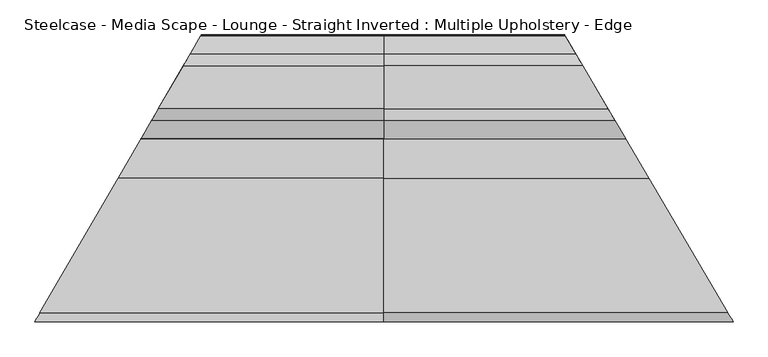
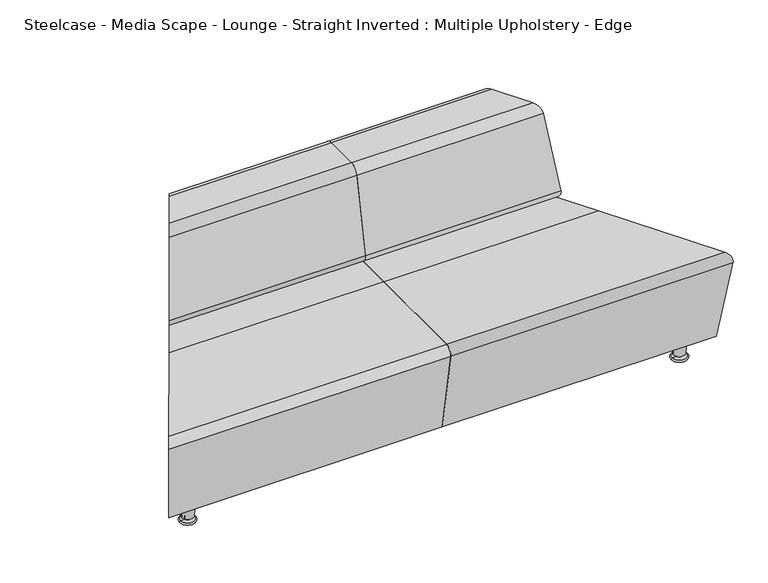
"""IFC4 building model written with IfcOpenShell, lengths in millimetres: furniture geometry, Steelcase - Media Scape - Lounge - Straight Inverted : Multiple Upholstery - Edge."""

from ifc_helpers import new_model, si_unit, point, frame, origin, place, context, project, spatial, polyline, circle_curve, ellipse_curve, trimmed, source, transform, mapped, element, save
from ifc_brep_helpers import plane_surface, cylinder_surface, revolved_surface, advanced_brep


def steelcase_media_scape_lounge_straight_inverted_multiple_60ef6d6e(model_context):
    return source(origin(), model_context, "Body", "AdvancedBrep", [
        advanced_brep(
        [(1014.6953148, 744.8271599, 735.3711206), (1014.6953148, 618.8595758, 735.3711206), (1014.6953148, 585.4318912, 707.8962134), (1014.6953148, 778.2548445, 707.8962134), (451.7110152, 778.2548445, 707.8962134), (432.3091266, 744.8271599, 735.3711206), (339.7939172, 585.4318912, 707.8962134), (359.1958058, 618.8595758, 735.3711206)],
        [
            (0, 1),
            (1, 2, circle_curve(frame((1014.6953148, 618.8595758, 701.2985646), z_axis=(1.0, 0.0, 0.0), x_axis=(0.0, -1.0, 0.0)), 34.0725559)),
            (2, 3),
            (3, 0, circle_curve(frame((1014.6953148, 744.8271599, 701.2985646), z_axis=(1.0, 0.0, 0.0), x_axis=(0.0, 1.0, 0.0)), 34.0725559)),
            (3, 4),
            (4, 5, ellipse_curve(frame((432.3091266, 744.8271599, 701.2985646), z_axis=(0.8648758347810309, -0.5019858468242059, 0.0), x_axis=(-0.5019858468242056, -0.864875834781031, 0.0)), 39.3958931, 34.0725559)),
            (5, 0),
            (2, 6),
            (6, 4),
            (1, 7),
            (7, 6, ellipse_curve(frame((359.1958058, 618.8595758, 701.2985646), z_axis=(0.8648758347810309, -0.5019858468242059, 0.0), x_axis=(-0.5019858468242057, -0.864875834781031, 0.0)), 39.3958931, 34.0725559)),
            (5, 7),
        ],
        [
            plane_surface(frame((1014.6953148, 778.8997158, 701.2985646), z_axis=(1.0, 0.0, 0.0), x_axis=(0.0, 0.0, 1.0))),
            cylinder_surface(frame((1014.6953148, 744.8271599, 701.2985646), z_axis=(-1.0, 0.0, 0.0), x_axis=(0.0, 1.0, 0.0)), 34.0725559),
            plane_surface(frame((0.0, 778.2548445, 707.8962134), z_axis=(0.0, 0.0, -1.0), x_axis=(1.0, 0.0, 0.0))),
            cylinder_surface(frame((1014.6953148, 618.8595758, 701.2985646), z_axis=(-1.0, 0.0, 0.0), x_axis=(0.0, -1.0, 0.0)), 34.0725559),
            plane_surface(frame((0.0, 618.8595758, 735.3711206), z_axis=(0.0, 0.0, 1.0), x_axis=(1.0, 0.0, 0.0))),
            plane_surface(frame((-97.2912411, -167.6259759, 763.7516668), z_axis=(-0.8648758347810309, 0.5019858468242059, 0.0), x_axis=(0.0, 0.0, -1.0))),
        ],
        [
            (0, [[1, 2, 3, 4]]),
            (1, [[-4, 5, 6, 7]]),
            (2, [[-3, 8, 9, -5]]),
            (3, [[-2, 10, 11, -8]]),
            (4, [[-1, -7, 12, -10]]),
            (5, [[-6, -9, -11, -12]]),
        ],
    ),
        advanced_brep(
        [(1014.6953148, 744.8271599, 735.3711206), (1014.6953148, 778.2548445, 707.8962134), (1014.6953148, 585.4318912, 707.8962134), (1014.6953148, 618.8595758, 735.3711206), (1666.8190592, 618.8595758, 735.3711206), (1592.7394393, 744.8271599, 735.3711206), (1686.477372, 585.4318912, 707.8962134), (1573.0811265, 778.2548445, 707.8962134)],
        [
            (0, 1, circle_curve(frame((1014.6953148, 744.8271599, 701.2985646), z_axis=(-1.0, 0.0, 0.0), x_axis=(0.0, 1.0, 0.0)), 34.0725559)),
            (1, 2),
            (2, 3, circle_curve(frame((1014.6953148, 618.8595758, 701.2985646), z_axis=(-1.0, 0.0, 0.0), x_axis=(0.0, -1.0, 0.0)), 34.0725559)),
            (3, 0),
            (3, 4),
            (4, 5),
            (5, 0),
            (2, 6),
            (6, 4, ellipse_curve(frame((1666.8190592, 618.8595758, 701.2985646), z_axis=(-0.8619909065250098, -0.5069237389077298, 0.0), x_axis=(0.5069237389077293, -0.8619909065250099, 0.0)), 39.5277441, 34.0725559)),
            (1, 7),
            (7, 6),
            (5, 7, ellipse_curve(frame((1592.7394393, 744.8271599, 701.2985646), z_axis=(-0.8619909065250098, -0.5069237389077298, 0.0), x_axis=(0.5069237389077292, -0.8619909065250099, 0.0)), 39.5277441, 34.0725559)),
        ],
        [
            plane_surface(frame((1014.6953148, 567.2050656, 735.3711206), z_axis=(-1.0, 0.0, 0.0), x_axis=(0.0, 1.0, 0.0))),
            plane_surface(frame((2041.4176852, 744.8271599, 735.3711206), z_axis=(0.0, 0.0, 1.0), x_axis=(-1.0, 0.0, 0.0))),
            cylinder_surface(frame((1014.6953148, 618.8595758, 701.2985646), z_axis=(1.0, 0.0, 0.0), x_axis=(0.0, -1.0, 0.0)), 34.0725559),
            plane_surface(frame((2041.4176852, 585.4318912, 707.8962134), z_axis=(0.0, 0.0, -1.0), x_axis=(-1.0, 0.0, 0.0))),
            cylinder_surface(frame((1014.6953148, 744.8271599, 701.2985646), z_axis=(1.0, 0.0, 0.0), x_axis=(0.0, 1.0, 0.0)), 34.0725559),
            plane_surface(frame((1493.0162317, 914.4, 763.7516668), z_axis=(0.8619909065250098, 0.5069237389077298, 0.0), x_axis=(0.0, 0.0, -1.0))),
        ],
        [
            (0, [[1, 2, 3, 4]]),
            (1, [[-4, 5, 6, 7]]),
            (2, [[-3, 8, 9, -5]]),
            (3, [[-2, 10, 11, -8]]),
            (4, [[-1, -7, 12, -10]]),
            (5, [[-6, -9, -11, -12]]),
        ],
    ),
        advanced_brep(
        [(1014.6953148, 744.618392, 735.1171206), (1014.6953148, 619.0683436, 735.1171206), (1014.6953148, 585.640659, 707.6422134), (1014.6953148, 531.7822003, 434.7626426), (1014.6953148, 556.7014693, 404.4443065), (1014.6953148, 806.9852663, 404.4443065), (1014.6953148, 831.9045354, 434.7626426), (1014.6953148, 778.0460766, 707.6422134), (451.5898434, 778.0460766, 707.6422134), (432.1879548, 744.618392, 735.1171206), (482.8500347, 831.9045354, 434.7626426), (468.3865477, 806.9852663, 404.4443065), (323.1183847, 556.7014693, 404.4443065), (308.6548977, 531.7822003, 434.7626426), (339.9150889, 585.640659, 707.6422134), (359.3169775, 619.0683436, 735.1171206)],
        [
            (0, 1),
            (1, 2, circle_curve(frame((1014.6953148, 619.0683436, 701.0445646), z_axis=(1.0, 0.0, 0.0), x_axis=(0.0, -1.0, 0.0)), 34.0725559)),
            (2, 3),
            (3, 4, circle_curve(frame((1014.6953148, 556.7014693, 429.8443065), z_axis=(1.0, 0.0, 0.0), x_axis=(0.0, -1.0, 0.0)), 25.4)),
            (4, 5),
            (5, 6, circle_curve(frame((1014.6953148, 806.9852663, 429.8443065), z_axis=(1.0, 0.0, 0.0), x_axis=(0.0, 1.0, 0.0)), 25.4)),
            (6, 7),
            (7, 0, circle_curve(frame((1014.6953148, 744.618392, 701.0445646), z_axis=(1.0, 0.0, 0.0), x_axis=(0.0, 1.0, 0.0)), 34.0725559)),
            (7, 8),
            (8, 9, ellipse_curve(frame((432.1879548, 744.618392, 701.0445646), z_axis=(0.8648758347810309, -0.501985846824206, 0.0), x_axis=(-0.5019858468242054, -0.864875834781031, 0.0)), 39.3958931, 34.0725559)),
            (9, 0),
            (6, 10),
            (10, 8),
            (5, 11),
            (11, 10, ellipse_curve(frame((468.3865477, 806.9852663, 429.8443065), z_axis=(0.8648758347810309, -0.501985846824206, 0.0), x_axis=(-0.5019858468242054, -0.864875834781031, 0.0)), 29.3683775, 25.4)),
            (4, 12),
            (12, 11),
            (3, 13),
            (13, 12, ellipse_curve(frame((323.1183847, 556.7014693, 429.8443065), z_axis=(0.8648758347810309, -0.501985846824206, 0.0), x_axis=(-0.5019858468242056, -0.864875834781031, 0.0)), 29.3683775, 25.4)),
            (2, 14),
            (14, 13),
            (1, 15),
            (15, 14, ellipse_curve(frame((359.3169775, 619.0683436, 701.0445646), z_axis=(0.8648758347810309, -0.501985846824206, 0.0), x_axis=(-0.5019858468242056, -0.864875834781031, 0.0)), 39.3958931, 34.0725559)),
            (9, 15),
        ],
        [
            plane_surface(frame((1014.6953148, 778.690948, 701.0445646), z_axis=(1.0, 0.0, 0.0), x_axis=(0.0, 0.0, 1.0))),
            cylinder_surface(frame((1014.6953148, 744.618392, 701.0445646), z_axis=(-1.0, 0.0, 0.0), x_axis=(0.0, 1.0, 0.0)), 34.0725559),
            plane_surface(frame((0.0, 778.0460766, 707.6422134), z_axis=(0.0, 0.9810735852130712, 0.19363527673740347), x_axis=(1.0, 0.0, 0.0))),
            cylinder_surface(frame((1014.6953148, 806.9852663, 429.8443065), z_axis=(-1.0, 0.0, 0.0), x_axis=(0.0, 1.0, 0.0)), 25.4),
            plane_surface(frame((0.0, 806.9852663, 404.4443065), z_axis=(0.0, 0.0, -1.0), x_axis=(1.0, 0.0, 0.0))),
            cylinder_surface(frame((1014.6953148, 556.7014693, 429.8443065), z_axis=(-1.0, 0.0, 0.0), x_axis=(0.0, -1.0, 0.0)), 25.4),
            plane_surface(frame((0.0, 531.7822003, 434.7626426), z_axis=(0.0, -0.9810735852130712, 0.19363527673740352), x_axis=(1.0, 0.0, 0.0))),
            cylinder_surface(frame((1014.6953148, 619.0683436, 701.0445646), z_axis=(-1.0, 0.0, 0.0), x_axis=(0.0, -1.0, 0.0)), 34.0725559),
            plane_surface(frame((0.0, 619.0683436, 735.1171206), z_axis=(0.0, 0.0, 1.0), x_axis=(1.0, 0.0, 0.0))),
            plane_surface(frame((-97.2912411, -167.6259759, 735.3711206), z_axis=(-0.8648758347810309, 0.501985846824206, 0.0), x_axis=(0.0, 0.0, -1.0))),
        ],
        [
            (0, [[1, 2, 3, 4, 5, 6, 7, 8]]),
            (1, [[-8, 9, 10, 11]]),
            (2, [[-7, 12, 13, -9]]),
            (3, [[-6, 14, 15, -12]]),
            (4, [[-5, 16, 17, -14]]),
            (5, [[-4, 18, 19, -16]]),
            (6, [[-3, 20, 21, -18]]),
            (7, [[-2, 22, 23, -20]]),
            (8, [[-1, -11, 24, -22]]),
            (9, [[-10, -13, -15, -17, -19, -21, -23, -24]]),
        ],
    ),
        advanced_brep(
        [(1014.6953148, 744.618392, 735.1171206), (1014.6953148, 778.0460766, 707.6422134), (1014.6953148, 831.9045354, 434.7626426), (1014.6953148, 806.9852663, 404.4443065), (1014.6953148, 556.7014693, 404.4443065), (1014.6953148, 531.7822003, 434.7626426), (1014.6953148, 585.640659, 707.6422134), (1014.6953148, 619.0683436, 735.1171206), (1666.696286, 619.0683436, 735.1171206), (1592.8622125, 744.618392, 735.1171206), (1686.3545988, 585.640659, 707.6422134), (1718.027939, 531.7822003, 434.7626426), (1703.373296, 556.7014693, 404.4443065), (1556.1852025, 806.9852663, 404.4443065), (1541.5305594, 831.9045354, 434.7626426), (1573.2038997, 778.0460766, 707.6422134)],
        [
            (0, 1, circle_curve(frame((1014.6953148, 744.618392, 701.0445646), z_axis=(-1.0, 0.0, 0.0), x_axis=(0.0, 1.0, 0.0)), 34.0725559)),
            (1, 2),
            (2, 3, circle_curve(frame((1014.6953148, 806.9852663, 429.8443065), z_axis=(-1.0, 0.0, 0.0), x_axis=(0.0, 1.0, 0.0)), 25.4)),
            (3, 4),
            (4, 5, circle_curve(frame((1014.6953148, 556.7014693, 429.8443065), z_axis=(-1.0, 0.0, 0.0), x_axis=(0.0, -1.0, 0.0)), 25.4)),
            (5, 6),
            (6, 7, circle_curve(frame((1014.6953148, 619.0683436, 701.0445646), z_axis=(-1.0, 0.0, 0.0), x_axis=(0.0, -1.0, 0.0)), 34.0725559)),
            (7, 0),
            (7, 8),
            (8, 9),
            (9, 0),
            (6, 10),
            (10, 8, ellipse_curve(frame((1666.696286, 619.0683436, 701.0445646), z_axis=(-0.8619909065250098, -0.5069237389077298, 0.0), x_axis=(0.5069237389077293, -0.8619909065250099, 0.0)), 39.5277441, 34.0725559)),
            (5, 11),
            (11, 10),
            (4, 12),
            (12, 11, ellipse_curve(frame((1703.373296, 556.7014693, 429.8443065), z_axis=(-0.8619909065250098, -0.5069237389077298, 0.0), x_axis=(0.5069237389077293, -0.8619909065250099, 0.0)), 29.4666682, 25.4)),
            (3, 13),
            (13, 12),
            (2, 14),
            (14, 13, ellipse_curve(frame((1556.1852025, 806.9852663, 429.8443065), z_axis=(-0.8619909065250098, -0.5069237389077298, 0.0), x_axis=(0.5069237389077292, -0.8619909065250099, 0.0)), 29.4666682, 25.4)),
            (1, 15),
            (15, 14),
            (9, 15, ellipse_curve(frame((1592.8622125, 744.618392, 701.0445646), z_axis=(-0.8619909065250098, -0.5069237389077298, 0.0), x_axis=(0.5069237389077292, -0.8619909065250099, 0.0)), 39.5277441, 34.0725559)),
        ],
        [
            plane_surface(frame((1014.6953148, 567.2050656, 735.1171206), z_axis=(-1.0, 0.0, 0.0), x_axis=(0.0, 1.0, 0.0))),
            plane_surface(frame((2041.4176852, 744.618392, 735.1171206), z_axis=(0.0, 0.0, 1.0), x_axis=(-1.0, 0.0, 0.0))),
            cylinder_surface(frame((1014.6953148, 619.0683436, 701.0445646), z_axis=(1.0, 0.0, 0.0), x_axis=(0.0, -1.0, 0.0)), 34.0725559),
            plane_surface(frame((2041.4176852, 585.640659, 707.6422134), z_axis=(0.0, -0.9810735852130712, 0.19363527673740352), x_axis=(-1.0, 0.0, 0.0))),
            cylinder_surface(frame((1014.6953148, 556.7014693, 429.8443065), z_axis=(1.0, 0.0, 0.0), x_axis=(0.0, -1.0, 0.0)), 25.4),
            plane_surface(frame((2041.4176852, 556.7014693, 404.4443065), z_axis=(0.0, 0.0, -1.0), x_axis=(-1.0, 0.0, 0.0))),
            cylinder_surface(frame((1014.6953148, 806.9852663, 429.8443065), z_axis=(1.0, 0.0, 0.0), x_axis=(0.0, 1.0, 0.0)), 25.4),
            plane_surface(frame((2041.4176852, 831.9045354, 434.7626426), z_axis=(0.0, 0.9810735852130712, 0.19363527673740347), x_axis=(-1.0, 0.0, 0.0))),
            cylinder_surface(frame((1014.6953148, 744.618392, 701.0445646), z_axis=(1.0, 0.0, 0.0), x_axis=(0.0, 1.0, 0.0)), 34.0725559),
            plane_surface(frame((1493.0162317, 914.4, 763.7516668), z_axis=(0.8619909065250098, 0.5069237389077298, 0.0), x_axis=(0.0, 0.0, -1.0))),
        ],
        [
            (0, [[1, 2, 3, 4, 5, 6, 7, 8]]),
            (1, [[-8, 9, 10, 11]]),
            (2, [[-7, 12, 13, -9]]),
            (3, [[-6, 14, 15, -12]]),
            (4, [[-5, 16, 17, -14]]),
            (5, [[-4, 18, 19, -16]]),
            (6, [[-3, 20, 21, -18]]),
            (7, [[-2, 22, 23, -20]]),
            (8, [[-1, -11, 24, -22]]),
            (9, [[-10, -13, -15, -17, -19, -21, -23, -24]]),
        ],
    ),
        advanced_brep(
        [(1014.6953148, 416.9525328, 404.4443065), (1014.6953148, 808.4584998, 404.4443065), (1014.6953148, 833.4999769, 374.7917281), (1014.6953148, 782.5280351, 74.6414242), (1014.6953148, 416.9525328, 74.6414242), (1014.6953148, 51.3770305, 74.6414242), (1014.6953148, 0.4050887, 374.7917281), (1014.6953148, 25.4465658, 404.4443065), (1785.5575196, 416.9525328, 404.4443065), (1555.3188163, 808.4584998, 404.4443065), (1540.5923045, 833.4999769, 374.7917281), (1570.5681281, 782.5280351, 74.6414242), (1785.5575196, 416.9525328, 74.6414242), (2000.5469111, 51.3770305, 74.6414242), (2030.5227347, 0.4050887, 374.7917281), (2015.7962229, 25.4465658, 404.4443065)],
        [
            (0, 1),
            (1, 2, circle_curve(frame((1014.6953148, 808.4584998, 379.0443065), z_axis=(-1.0, 0.0, 0.0), x_axis=(0.0, 1.0, 0.0)), 25.4)),
            (2, 3),
            (3, 4),
            (4, 5),
            (5, 6),
            (6, 7, circle_curve(frame((1014.6953148, 25.4465658, 379.0443065), z_axis=(-1.0, 0.0, 0.0), x_axis=(0.0, -1.0, 0.0)), 25.4)),
            (7, 0),
            (0, 8),
            (8, 9),
            (9, 1),
            (9, 10, ellipse_curve(frame((1555.3188163, 808.4584998, 379.0443065), z_axis=(-0.8619909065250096, -0.5069237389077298, 0.0), x_axis=(-0.5069237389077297, 0.8619909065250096, 0.0)), 29.4666682, 25.4)),
            (10, 2),
            (10, 11),
            (11, 3),
            (11, 12),
            (12, 4),
            (12, 13),
            (13, 5),
            (13, 14),
            (14, 6),
            (14, 15, ellipse_curve(frame((2015.7962229, 25.4465658, 379.0443065), z_axis=(-0.8619909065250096, -0.5069237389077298, 0.0), x_axis=(-0.5069237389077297, 0.8619909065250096, 0.0)), 29.4666682, 25.4)),
            (15, 7),
            (15, 8),
        ],
        [
            plane_surface(frame((1014.6953148, 891.4773142, 404.4443065), z_axis=(-1.0, 0.0, 0.0), x_axis=(0.0, 1.0, 0.0))),
            plane_surface(frame((1014.6953148, 416.9525328, 404.4443065), z_axis=(0.0, 0.0, 1.0), x_axis=(1.0, 0.0, 0.0))),
            cylinder_surface(frame((2041.4176852, 808.4584998, 379.0443065), z_axis=(-1.0, 0.0, 0.0), x_axis=(0.0, 1.0, 0.0)), 25.4),
            plane_surface(frame((1014.6953148, 833.4999769, 374.7917281), z_axis=(0.0, 0.9858849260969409, -0.1674243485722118), x_axis=(1.0, 0.0, 0.0))),
            plane_surface(frame((1014.6953148, 782.5280351, 74.6414242), z_axis=(0.0, 0.0, -1.0), x_axis=(1.0, 0.0, 0.0))),
            plane_surface(frame((1014.6953148, 416.9525328, 74.6414242), z_axis=(0.0, 0.0, -1.0), x_axis=(1.0, 0.0, 0.0))),
            plane_surface(frame((1014.6953148, 51.3770305, 74.6414242), z_axis=(0.0, -0.9858849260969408, -0.16742434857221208), x_axis=(1.0, 0.0, 0.0))),
            cylinder_surface(frame((2041.4176852, 25.4465658, 379.0443065), z_axis=(-1.0, 0.0, 0.0), x_axis=(0.0, -1.0, 0.0)), 25.4),
            plane_surface(frame((1014.6953148, 25.4465658, 404.4443065), z_axis=(0.0, 0.0, 1.0), x_axis=(1.0, 0.0, 0.0))),
            plane_surface(frame((1493.0162317, 914.4, 735.3711206), z_axis=(0.8619909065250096, 0.5069237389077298, 0.0), x_axis=(0.0, 0.0, -1.0))),
        ],
        [
            (0, [[1, 2, 3, 4, 5, 6, 7, 8]]),
            (1, [[-1, 9, 10, 11]]),
            (2, [[-2, -11, 12, 13]]),
            (3, [[-3, -13, 14, 15]]),
            (4, [[-4, -15, 16, 17]]),
            (5, [[-5, -17, 18, 19]]),
            (6, [[-6, -19, 20, 21]]),
            (7, [[-7, -21, 22, 23]]),
            (8, [[-8, -23, 24, -9]]),
            (9, [[-10, -24, -22, -20, -18, -16, -14, -12]]),
        ],
    ),
        advanced_brep(
        [(1014.6953148, 416.9525328, 404.4443065), (1014.6953148, 25.4465658, 404.4443065), (1014.6953148, 0.4050887, 374.7917281), (1014.6953148, 51.3770305, 74.6414242), (1014.6953148, 416.9525328, 74.6414242), (1014.6953148, 782.5280351, 74.6414242), (1014.6953148, 833.4999769, 374.7917281), (1014.6953148, 808.4584998, 404.4443065), (242.0061771, 416.9525328, 404.4443065), (14.7707214, 25.4465658, 404.4443065), (0.2363032, 0.4050887, 374.7917281), (29.8211203, 51.3770305, 74.6414242), (242.0061771, 416.9525328, 74.6414242), (454.1912338, 782.5280351, 74.6414242), (483.7760509, 833.4999769, 374.7917281), (469.2416327, 808.4584998, 404.4443065)],
        [
            (0, 1),
            (1, 2, circle_curve(frame((1014.6953148, 25.4465658, 379.0443065), z_axis=(1.0, 0.0, 0.0), x_axis=(0.0, -1.0, 0.0)), 25.4)),
            (2, 3),
            (3, 4),
            (4, 5),
            (5, 6),
            (6, 7, circle_curve(frame((1014.6953148, 808.4584998, 379.0443065), z_axis=(1.0, 0.0, 0.0), x_axis=(0.0, 1.0, 0.0)), 25.4)),
            (7, 0),
            (0, 8),
            (8, 9),
            (9, 1),
            (9, 10, ellipse_curve(frame((14.7707214, 25.4465658, 379.0443065), z_axis=(0.8648758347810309, -0.501985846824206, 0.0), x_axis=(0.5019858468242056, 0.864875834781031, 0.0)), 29.3683775, 25.4)),
            (10, 2),
            (10, 11),
            (11, 3),
            (11, 12),
            (12, 4),
            (12, 13),
            (13, 5),
            (13, 14),
            (14, 6),
            (14, 15, ellipse_curve(frame((469.2416327, 808.4584998, 379.0443065), z_axis=(0.8648758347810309, -0.501985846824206, 0.0), x_axis=(0.5019858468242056, 0.864875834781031, 0.0)), 29.3683775, 25.4)),
            (15, 7),
            (15, 8),
        ],
        [
            plane_surface(frame((1014.6953148, -57.5722485, 404.4443065), z_axis=(1.0, 0.0, 0.0), x_axis=(0.0, -1.0, 0.0))),
            plane_surface(frame((1014.6953148, 416.9525328, 404.4443065), z_axis=(0.0, 0.0, 1.0), x_axis=(-1.0, 0.0, 0.0))),
            cylinder_surface(frame((0.0, 25.4465658, 379.0443065), z_axis=(1.0, 0.0, 0.0), x_axis=(0.0, -1.0, 0.0)), 25.4),
            plane_surface(frame((1014.6953148, 0.4050887, 374.7917281), z_axis=(0.0, -0.9858849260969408, -0.16742434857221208), x_axis=(-1.0, 0.0, 0.0))),
            plane_surface(frame((1014.6953148, 51.3770305, 74.6414242), z_axis=(0.0, 0.0, -1.0), x_axis=(-1.0, 0.0, 0.0))),
            plane_surface(frame((1014.6953148, 416.9525328, 74.6414242), z_axis=(0.0, 0.0, -1.0), x_axis=(-1.0, 0.0, 0.0))),
            plane_surface(frame((1014.6953148, 782.5280351, 74.6414242), z_axis=(0.0, 0.9858849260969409, -0.1674243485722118), x_axis=(-1.0, 0.0, 0.0))),
            cylinder_surface(frame((0.0, 808.4584998, 379.0443065), z_axis=(1.0, 0.0, 0.0), x_axis=(0.0, 1.0, 0.0)), 25.4),
            plane_surface(frame((1014.6953148, 808.4584998, 404.4443065), z_axis=(0.0, 0.0, 1.0), x_axis=(-1.0, 0.0, 0.0))),
            plane_surface(frame((-97.2912411, -167.6259759, 735.3711206), z_axis=(-0.8648758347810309, 0.501985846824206, 0.0), x_axis=(0.0, 0.0, -1.0))),
        ],
        [
            (0, [[1, 2, 3, 4, 5, 6, 7, 8]]),
            (1, [[-1, 9, 10, 11]]),
            (2, [[-2, -11, 12, 13]]),
            (3, [[-3, -13, 14, 15]]),
            (4, [[-4, -15, 16, 17]]),
            (5, [[-5, -17, 18, 19]]),
            (6, [[-6, -19, 20, 21]]),
            (7, [[-7, -21, 22, 23]]),
            (8, [[-8, -23, 24, -9]]),
            (9, [[-10, -24, -22, -20, -18, -16, -14, -12]]),
        ],
    ),
        advanced_brep(
        [(1545.570234, 722.5255264, 74.1561731), (1569.3571541, 722.5255264, 74.1561731), (1521.7833138, 722.5255264, 74.1561731), (1519.5165917, 722.5255264, 0.0), (1571.6238762, 722.5255264, 0.0), (1545.570234, 722.5255264, 0.0), (1519.5165917, 722.5255264, 6.3788302), (1571.6238762, 722.5255264, 6.3788302), (1536.045234, 722.5255264, 6.3788302), (1555.095234, 722.5255264, 6.3788302), (1536.045234, 722.5255264, 17.057519), (1555.095234, 722.5255264, 17.057519), (1524.6151177, 722.5255264, 17.057519), (1566.5253502, 722.5255264, 17.057519)],
        [
            (0, 1),
            (1, 2, circle_curve(frame((1545.570234, 722.5255264, 74.1561731), z_axis=(0.0, 0.0, 1.0), x_axis=(1.0, 0.0, 0.0)), 23.7869202)),
            (2, 0),
            (2, 1, circle_curve(frame((1545.570234, 722.5255264, 74.1561731), z_axis=(0.0, 0.0, 1.0), x_axis=(1.0, 0.0, 0.0)), 23.7869202)),
            (3, 4, circle_curve(frame((1545.570234, 722.5255264, 0.0), z_axis=(0.0, 0.0, -1.0), x_axis=(1.0, 0.0, 0.0)), 26.0536423)),
            (4, 5),
            (5, 3),
            (4, 3, circle_curve(frame((1545.570234, 722.5255264, 0.0), z_axis=(0.0, 0.0, -1.0), x_axis=(1.0, 0.0, 0.0)), 26.0536423)),
            (6, 7, circle_curve(frame((1545.570234, 722.5255264, 6.3788302), z_axis=(0.0, 0.0, -1.0), x_axis=(1.0, 0.0, 0.0)), 26.0536423)),
            (7, 4, circle_curve(frame((1571.6238762, 722.5255264, 3.1894151), z_axis=(0.0, 1.0, 0.0), x_axis=(1.0, 0.0, 0.0)), 3.1894151)),
            (3, 6, circle_curve(frame((1519.5165917, 722.5255264, 3.1894151), z_axis=(0.0, 1.0, 0.0), x_axis=(-1.0, 0.0, 0.0)), 3.1894151)),
            (7, 6, circle_curve(frame((1545.570234, 722.5255264, 6.3788302), z_axis=(0.0, 0.0, -1.0), x_axis=(1.0, 0.0, 0.0)), 26.0536423)),
            (8, 9, circle_curve(frame((1545.570234, 722.5255264, 6.3788302), z_axis=(0.0, 0.0, -1.0), x_axis=(1.0, 0.0, 0.0)), 9.525)),
            (9, 7),
            (6, 8),
            (9, 8, circle_curve(frame((1545.570234, 722.5255264, 6.3788302), z_axis=(0.0, 0.0, -1.0), x_axis=(1.0, 0.0, 0.0)), 9.525)),
            (10, 11, circle_curve(frame((1545.570234, 722.5255264, 17.057519), z_axis=(0.0, 0.0, -1.0), x_axis=(1.0, 0.0, 0.0)), 9.525)),
            (11, 9),
            (8, 10),
            (11, 10, circle_curve(frame((1545.570234, 722.5255264, 17.057519), z_axis=(0.0, 0.0, -1.0), x_axis=(1.0, 0.0, 0.0)), 9.525)),
            (12, 13, circle_curve(frame((1545.570234, 722.5255264, 17.057519), z_axis=(0.0, 0.0, -1.0), x_axis=(1.0, 0.0, 0.0)), 20.9551163)),
            (13, 11),
            (10, 12),
            (13, 12, circle_curve(frame((1545.570234, 722.5255264, 17.057519), z_axis=(0.0, 0.0, -1.0), x_axis=(1.0, 0.0, 0.0)), 20.9551163)),
            (1, 13),
            (12, 2),
        ],
        [
            plane_surface(frame((1545.570234, 722.5255264, 74.1561731), z_axis=(0.0, 0.0, 1.0), x_axis=(1.0, 0.0, 0.0))),
            plane_surface(frame((1545.570234, 722.5255264, 0.0), z_axis=(0.0, 0.0, -1.0), x_axis=(1.0, 0.0, 0.0))),
            revolved_surface(trimmed(ellipse_curve(frame((1571.6238762, 722.5255264, 3.1894151), z_axis=(0.0, -1.0, 0.0), x_axis=(1.0, 0.0, 0.0)), 3.1894151, 3.1894151), [point((1571.6238762, 722.5255264, 0.0))], [point((1571.6238762, 722.5255264, 6.3788302))], True, "CARTESIAN"), (1545.570234, 722.5255264, 61.4561731), (0.0, 0.0, 1.0)),
            plane_surface(frame((1545.570234, 722.5255264, 6.3788302), z_axis=(0.0, 0.0, 1.0), x_axis=(1.0, 0.0, 0.0))),
            cylinder_surface(frame((1545.570234, 722.5255264, 61.4561731), z_axis=(0.0, 0.0, 1.0), x_axis=(1.0, 0.0, 0.0)), 9.525),
            plane_surface(frame((1545.570234, 722.5255264, 17.057519), z_axis=(0.0, 0.0, -1.0), x_axis=(1.0, 0.0, 0.0))),
            revolved_surface(polyline([(1566.5253502, 722.5255264, 17.057519), (1569.3571541, 722.5255264, 74.1561731)]), (1545.570234, 722.5255264, 61.4561731), (0.0, 0.0, 1.0)),
        ],
        [
            (0, [[1, 2, 3]]),
            (0, [[-3, 4, -1]]),
            (1, [[5, 6, 7]]),
            (1, [[8, -7, -6]]),
            (2, [[9, 10, -5, 11]]),
            (2, [[12, -11, -8, -10]]),
            (3, [[13, 14, -9, 15]]),
            (3, [[16, -15, -12, -14]]),
            (4, [[17, 18, -13, 19]]),
            (4, [[20, -19, -16, -18]]),
            (5, [[21, 22, -17, 23]]),
            (5, [[24, -23, -20, -22]]),
            (6, [[-2, 25, -21, 26]]),
            (6, [[-4, -26, -24, -25]]),
        ],
    ),
        advanced_brep(
        [(1896.0976754, 102.3340218, 74.1561731), (1919.8845955, 102.3340218, 74.1561731), (1872.3107552, 102.3340218, 74.1561731), (1870.0440331, 102.3340218, 0.0), (1922.1513176, 102.3340218, 0.0), (1896.0976754, 102.3340218, 0.0), (1870.0440331, 102.3340218, 6.3788302), (1922.1513176, 102.3340218, 6.3788302), (1886.5726754, 102.3340218, 6.3788302), (1905.6226754, 102.3340218, 6.3788302), (1886.5726754, 102.3340218, 17.057519), (1905.6226754, 102.3340218, 17.057519), (1875.1425591, 102.3340218, 17.057519), (1917.0527916, 102.3340218, 17.057519)],
        [
            (0, 1),
            (1, 2, circle_curve(frame((1896.0976754, 102.3340218, 74.1561731), z_axis=(0.0, 0.0, 1.0), x_axis=(1.0, 0.0, 0.0)), 23.7869202)),
            (2, 0),
            (2, 1, circle_curve(frame((1896.0976754, 102.3340218, 74.1561731), z_axis=(0.0, 0.0, 1.0), x_axis=(1.0, 0.0, 0.0)), 23.7869202)),
            (3, 4, circle_curve(frame((1896.0976754, 102.3340218, 0.0), z_axis=(0.0, 0.0, -1.0), x_axis=(1.0, 0.0, 0.0)), 26.0536423)),
            (4, 5),
            (5, 3),
            (4, 3, circle_curve(frame((1896.0976754, 102.3340218, 0.0), z_axis=(0.0, 0.0, -1.0), x_axis=(1.0, 0.0, 0.0)), 26.0536423)),
            (6, 7, circle_curve(frame((1896.0976754, 102.3340218, 6.3788302), z_axis=(0.0, 0.0, -1.0), x_axis=(1.0, 0.0, 0.0)), 26.0536423)),
            (7, 4, circle_curve(frame((1922.1513176, 102.3340218, 3.1894151), z_axis=(0.0, 1.0, 0.0), x_axis=(1.0, 0.0, 0.0)), 3.1894151)),
            (3, 6, circle_curve(frame((1870.0440331, 102.3340218, 3.1894151), z_axis=(0.0, 1.0, 0.0), x_axis=(-1.0, 0.0, 0.0)), 3.1894151)),
            (7, 6, circle_curve(frame((1896.0976754, 102.3340218, 6.3788302), z_axis=(0.0, 0.0, -1.0), x_axis=(1.0, 0.0, 0.0)), 26.0536423)),
            (8, 9, circle_curve(frame((1896.0976754, 102.3340218, 6.3788302), z_axis=(0.0, 0.0, -1.0), x_axis=(1.0, 0.0, 0.0)), 9.525)),
            (9, 7),
            (6, 8),
            (9, 8, circle_curve(frame((1896.0976754, 102.3340218, 6.3788302), z_axis=(0.0, 0.0, -1.0), x_axis=(1.0, 0.0, 0.0)), 9.525)),
            (10, 11, circle_curve(frame((1896.0976754, 102.3340218, 17.057519), z_axis=(0.0, 0.0, -1.0), x_axis=(1.0, 0.0, 0.0)), 9.525)),
            (11, 9),
            (8, 10),
            (11, 10, circle_curve(frame((1896.0976754, 102.3340218, 17.057519), z_axis=(0.0, 0.0, -1.0), x_axis=(1.0, 0.0, 0.0)), 9.525)),
            (12, 13, circle_curve(frame((1896.0976754, 102.3340218, 17.057519), z_axis=(0.0, 0.0, -1.0), x_axis=(1.0, 0.0, 0.0)), 20.9551163)),
            (13, 11),
            (10, 12),
            (13, 12, circle_curve(frame((1896.0976754, 102.3340218, 17.057519), z_axis=(0.0, 0.0, -1.0), x_axis=(1.0, 0.0, 0.0)), 20.9551163)),
            (1, 13),
            (12, 2),
        ],
        [
            plane_surface(frame((1896.0976754, 102.3340218, 74.1561731), z_axis=(0.0, 0.0, 1.0), x_axis=(1.0, 0.0, 0.0))),
            plane_surface(frame((1896.0976754, 102.3340218, 0.0), z_axis=(0.0, 0.0, -1.0), x_axis=(1.0, 0.0, 0.0))),
            revolved_surface(trimmed(ellipse_curve(frame((1922.1513176, 102.3340218, 3.1894151), z_axis=(0.0, -1.0, 0.0), x_axis=(1.0, 0.0, 0.0)), 3.1894151, 3.1894151), [point((1922.1513176, 102.3340218, 0.0))], [point((1922.1513176, 102.3340218, 6.3788302))], True, "CARTESIAN"), (1896.0976754, 102.3340218, 61.4561731), (0.0, 0.0, 1.0)),
            plane_surface(frame((1896.0976754, 102.3340218, 6.3788302), z_axis=(0.0, 0.0, 1.0), x_axis=(1.0, 0.0, 0.0))),
            cylinder_surface(frame((1896.0976754, 102.3340218, 61.4561731), z_axis=(0.0, 0.0, 1.0), x_axis=(1.0, 0.0, 0.0)), 9.525),
            plane_surface(frame((1896.0976754, 102.3340218, 17.057519), z_axis=(0.0, 0.0, -1.0), x_axis=(1.0, 0.0, 0.0))),
            revolved_surface(polyline([(1917.0527916, 102.3340218, 17.057519), (1919.8845955, 102.3340218, 74.1561731)]), (1896.0976754, 102.3340218, 61.4561731), (0.0, 0.0, 1.0)),
        ],
        [
            (0, [[1, 2, 3]]),
            (0, [[-3, 4, -1]]),
            (1, [[5, 6, 7]]),
            (1, [[8, -7, -6]]),
            (2, [[9, 10, -5, 11]]),
            (2, [[12, -11, -8, -10]]),
            (3, [[13, 14, -9, 15]]),
            (3, [[16, -15, -12, -14]]),
            (4, [[17, 18, -13, 19]]),
            (4, [[20, -19, -16, -18]]),
            (5, [[21, 22, -17, 23]]),
            (5, [[24, -23, -20, -22]]),
            (6, [[-2, 25, -21, 26]]),
            (6, [[-4, -26, -24, -25]]),
        ],
    ),
        advanced_brep(
        [(126.8093937, 102.277914, 74.1561731), (150.5963139, 102.277914, 74.1561731), (103.0224736, 102.277914, 74.1561731), (100.7557515, 102.277914, 0.0), (152.863036, 102.277914, 0.0), (126.8093937, 102.277914, 0.0), (100.7557515, 102.277914, 6.3788302), (152.863036, 102.277914, 6.3788302), (117.2843937, 102.277914, 6.3788302), (136.3343937, 102.277914, 6.3788302), (117.2843937, 102.277914, 17.057519), (136.3343937, 102.277914, 17.057519), (105.8542775, 102.277914, 17.057519), (147.76451, 102.277914, 17.057519)],
        [
            (0, 1),
            (1, 2, circle_curve(frame((126.8093937, 102.277914, 74.1561731), z_axis=(0.0, 0.0, 1.0), x_axis=(1.0, 0.0, 0.0)), 23.7869202)),
            (2, 0),
            (2, 1, circle_curve(frame((126.8093937, 102.277914, 74.1561731), z_axis=(0.0, 0.0, 1.0), x_axis=(1.0, 0.0, 0.0)), 23.7869202)),
            (3, 4, circle_curve(frame((126.8093937, 102.277914, 0.0), z_axis=(0.0, 0.0, -1.0), x_axis=(1.0, 0.0, 0.0)), 26.0536423)),
            (4, 5),
            (5, 3),
            (4, 3, circle_curve(frame((126.8093937, 102.277914, 0.0), z_axis=(0.0, 0.0, -1.0), x_axis=(1.0, 0.0, 0.0)), 26.0536423)),
            (6, 7, circle_curve(frame((126.8093937, 102.277914, 6.3788302), z_axis=(0.0, 0.0, -1.0), x_axis=(1.0, 0.0, 0.0)), 26.0536423)),
            (7, 4, circle_curve(frame((152.863036, 102.277914, 3.1894151), z_axis=(0.0, 1.0, 0.0), x_axis=(1.0, 0.0, 0.0)), 3.1894151)),
            (3, 6, circle_curve(frame((100.7557515, 102.277914, 3.1894151), z_axis=(0.0, 1.0, 0.0), x_axis=(-1.0, 0.0, 0.0)), 3.1894151)),
            (7, 6, circle_curve(frame((126.8093937, 102.277914, 6.3788302), z_axis=(0.0, 0.0, -1.0), x_axis=(1.0, 0.0, 0.0)), 26.0536423)),
            (8, 9, circle_curve(frame((126.8093937, 102.277914, 6.3788302), z_axis=(0.0, 0.0, -1.0), x_axis=(1.0, 0.0, 0.0)), 9.525)),
            (9, 7),
            (6, 8),
            (9, 8, circle_curve(frame((126.8093937, 102.277914, 6.3788302), z_axis=(0.0, 0.0, -1.0), x_axis=(1.0, 0.0, 0.0)), 9.525)),
            (10, 11, circle_curve(frame((126.8093937, 102.277914, 17.057519), z_axis=(0.0, 0.0, -1.0), x_axis=(1.0, 0.0, 0.0)), 9.525)),
            (11, 9),
            (8, 10),
            (11, 10, circle_curve(frame((126.8093937, 102.277914, 17.057519), z_axis=(0.0, 0.0, -1.0), x_axis=(1.0, 0.0, 0.0)), 9.525)),
            (12, 13, circle_curve(frame((126.8093937, 102.277914, 17.057519), z_axis=(0.0, 0.0, -1.0), x_axis=(1.0, 0.0, 0.0)), 20.9551163)),
            (13, 11),
            (10, 12),
            (13, 12, circle_curve(frame((126.8093937, 102.277914, 17.057519), z_axis=(0.0, 0.0, -1.0), x_axis=(1.0, 0.0, 0.0)), 20.9551163)),
            (1, 13),
            (12, 2),
        ],
        [
            plane_surface(frame((126.8093937, 102.277914, 74.1561731), z_axis=(0.0, 0.0, 1.0), x_axis=(1.0, 0.0, 0.0))),
            plane_surface(frame((126.8093937, 102.277914, 0.0), z_axis=(0.0, 0.0, -1.0), x_axis=(1.0, 0.0, 0.0))),
            revolved_surface(trimmed(ellipse_curve(frame((152.863036, 102.277914, 3.1894151), z_axis=(0.0, -1.0, 0.0), x_axis=(1.0, 0.0, 0.0)), 3.1894151, 3.1894151), [point((152.863036, 102.277914, 0.0))], [point((152.863036, 102.277914, 6.3788302))], True, "CARTESIAN"), (126.8093937, 102.277914, 61.4561731), (0.0, 0.0, 1.0)),
            plane_surface(frame((126.8093937, 102.277914, 6.3788302), z_axis=(0.0, 0.0, 1.0), x_axis=(1.0, 0.0, 0.0))),
            cylinder_surface(frame((126.8093937, 102.277914, 61.4561731), z_axis=(0.0, 0.0, 1.0), x_axis=(1.0, 0.0, 0.0)), 9.525),
            plane_surface(frame((126.8093937, 102.277914, 17.057519), z_axis=(0.0, 0.0, -1.0), x_axis=(1.0, 0.0, 0.0))),
            revolved_surface(polyline([(147.76451, 102.277914, 17.057519), (150.5963139, 102.277914, 74.1561731)]), (126.8093937, 102.277914, 61.4561731), (0.0, 0.0, 1.0)),
        ],
        [
            (0, [[1, 2, 3]]),
            (0, [[-3, 4, -1]]),
            (1, [[5, 6, 7]]),
            (1, [[8, -7, -6]]),
            (2, [[9, 10, -5, 11]]),
            (2, [[12, -11, -8, -10]]),
            (3, [[13, 14, -9, 15]]),
            (3, [[16, -15, -12, -14]]),
            (4, [[17, 18, -13, 19]]),
            (4, [[20, -19, -16, -18]]),
            (5, [[21, 22, -17, 23]]),
            (5, [[24, -23, -20, -22]]),
            (6, [[-2, 25, -21, 26]]),
            (6, [[-4, -26, -24, -25]]),
        ],
    ),
        advanced_brep(
        [(477.8028512, 722.5255264, 74.1561731), (501.5897713, 722.5255264, 74.1561731), (454.015931, 722.5255264, 74.1561731), (451.7492089, 722.5255264, 0.0), (503.8564934, 722.5255264, 0.0), (477.8028512, 722.5255264, 0.0), (451.7492089, 722.5255264, 6.3788302), (503.8564934, 722.5255264, 6.3788302), (468.2778512, 722.5255264, 6.3788302), (487.3278512, 722.5255264, 6.3788302), (468.2778512, 722.5255264, 17.057519), (487.3278512, 722.5255264, 17.057519), (456.8477349, 722.5255264, 17.057519), (498.7579674, 722.5255264, 17.057519)],
        [
            (0, 1),
            (1, 2, circle_curve(frame((477.8028512, 722.5255264, 74.1561731), z_axis=(0.0, 0.0, 1.0), x_axis=(1.0, 0.0, 0.0)), 23.7869202)),
            (2, 0),
            (2, 1, circle_curve(frame((477.8028512, 722.5255264, 74.1561731), z_axis=(0.0, 0.0, 1.0), x_axis=(1.0, 0.0, 0.0)), 23.7869202)),
            (3, 4, circle_curve(frame((477.8028512, 722.5255264, 0.0), z_axis=(0.0, 0.0, -1.0), x_axis=(1.0, 0.0, 0.0)), 26.0536423)),
            (4, 5),
            (5, 3),
            (4, 3, circle_curve(frame((477.8028512, 722.5255264, 0.0), z_axis=(0.0, 0.0, -1.0), x_axis=(1.0, 0.0, 0.0)), 26.0536423)),
            (6, 7, circle_curve(frame((477.8028512, 722.5255264, 6.3788302), z_axis=(0.0, 0.0, -1.0), x_axis=(1.0, 0.0, 0.0)), 26.0536423)),
            (7, 4, circle_curve(frame((503.8564934, 722.5255264, 3.1894151), z_axis=(0.0, 1.0, 0.0), x_axis=(1.0, 0.0, 0.0)), 3.1894151)),
            (3, 6, circle_curve(frame((451.7492089, 722.5255264, 3.1894151), z_axis=(0.0, 1.0, 0.0), x_axis=(-1.0, 0.0, 0.0)), 3.1894151)),
            (7, 6, circle_curve(frame((477.8028512, 722.5255264, 6.3788302), z_axis=(0.0, 0.0, -1.0), x_axis=(1.0, 0.0, 0.0)), 26.0536423)),
            (8, 9, circle_curve(frame((477.8028512, 722.5255264, 6.3788302), z_axis=(0.0, 0.0, -1.0), x_axis=(1.0, 0.0, 0.0)), 9.525)),
            (9, 7),
            (6, 8),
            (9, 8, circle_curve(frame((477.8028512, 722.5255264, 6.3788302), z_axis=(0.0, 0.0, -1.0), x_axis=(1.0, 0.0, 0.0)), 9.525)),
            (10, 11, circle_curve(frame((477.8028512, 722.5255264, 17.057519), z_axis=(0.0, 0.0, -1.0), x_axis=(1.0, 0.0, 0.0)), 9.525)),
            (11, 9),
            (8, 10),
            (11, 10, circle_curve(frame((477.8028512, 722.5255264, 17.057519), z_axis=(0.0, 0.0, -1.0), x_axis=(1.0, 0.0, 0.0)), 9.525)),
            (12, 13, circle_curve(frame((477.8028512, 722.5255264, 17.057519), z_axis=(0.0, 0.0, -1.0), x_axis=(1.0, 0.0, 0.0)), 20.9551163)),
            (13, 11),
            (10, 12),
            (13, 12, circle_curve(frame((477.8028512, 722.5255264, 17.057519), z_axis=(0.0, 0.0, -1.0), x_axis=(1.0, 0.0, 0.0)), 20.9551163)),
            (1, 13),
            (12, 2),
        ],
        [
            plane_surface(frame((477.8028512, 722.5255264, 74.1561731), z_axis=(0.0, 0.0, 1.0), x_axis=(1.0, 0.0, 0.0))),
            plane_surface(frame((477.8028512, 722.5255264, 0.0), z_axis=(0.0, 0.0, -1.0), x_axis=(1.0, 0.0, 0.0))),
            revolved_surface(trimmed(ellipse_curve(frame((503.8564934, 722.5255264, 3.1894151), z_axis=(0.0, -1.0, 0.0), x_axis=(1.0, 0.0, 0.0)), 3.1894151, 3.1894151), [point((503.8564934, 722.5255264, 0.0))], [point((503.8564934, 722.5255264, 6.3788302))], True, "CARTESIAN"), (477.8028512, 722.5255264, 61.4561731), (0.0, 0.0, 1.0)),
            plane_surface(frame((477.8028512, 722.5255264, 6.3788302), z_axis=(0.0, 0.0, 1.0), x_axis=(1.0, 0.0, 0.0))),
            cylinder_surface(frame((477.8028512, 722.5255264, 61.4561731), z_axis=(0.0, 0.0, 1.0), x_axis=(1.0, 0.0, 0.0)), 9.525),
            plane_surface(frame((477.8028512, 722.5255264, 17.057519), z_axis=(0.0, 0.0, -1.0), x_axis=(1.0, 0.0, 0.0))),
            revolved_surface(polyline([(498.7579674, 722.5255264, 17.057519), (501.5897713, 722.5255264, 74.1561731)]), (477.8028512, 722.5255264, 61.4561731), (0.0, 0.0, 1.0)),
        ],
        [
            (0, [[1, 2, 3]]),
            (0, [[-3, 4, -1]]),
            (1, [[5, 6, 7]]),
            (1, [[8, -7, -6]]),
            (2, [[9, 10, -5, 11]]),
            (2, [[12, -11, -8, -10]]),
            (3, [[13, 14, -9, 15]]),
            (3, [[16, -15, -12, -14]]),
            (4, [[17, 18, -13, 19]]),
            (4, [[20, -19, -16, -18]]),
            (5, [[21, 22, -17, 23]]),
            (5, [[24, -23, -20, -22]]),
            (6, [[-2, 25, -21, 26]]),
            (6, [[-4, -26, -24, -25]]),
        ],
    ),
    ])


if __name__ == "__main__":
    model = new_model("IFC4")
    model_context = context("Model", 3, world=origin())
    ifc_project = project(units=[si_unit("LENGTHUNIT", "METRE", prefix="MILLI")], contexts=[model_context])
    site = spatial("IfcSite", under=ifc_project)
    building = spatial("IfcBuilding", under=site)
    placement = place(None, origin())
    steelcase_media_scape_lounge_straight_inverted_multiple_shape = steelcase_media_scape_lounge_straight_inverted_multiple_60ef6d6e(model_context)
    element("IfcFurniture", 1, ObjectType="Steelcase - Media Scape - Lounge - Straight Inverted : Multiple Upholstery - Edge", at=placement, inside=building, context=model_context, shape_type="MappedRepresentation", body=[
        mapped(steelcase_media_scape_lounge_straight_inverted_multiple_shape, transform((0.0, 0.0, 0.0), x_axis=(1.0, 0.0, 0.0), y_axis=(0.0, 1.0, 0.0), z_axis=(0.0, 0.0, 1.0))),
    ])
    save(model, "model.ifc")
